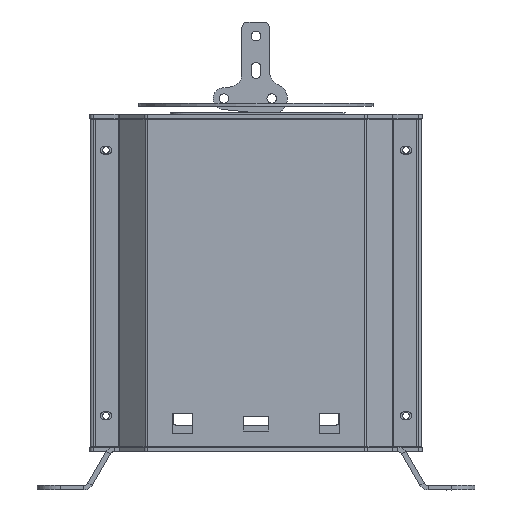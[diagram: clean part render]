
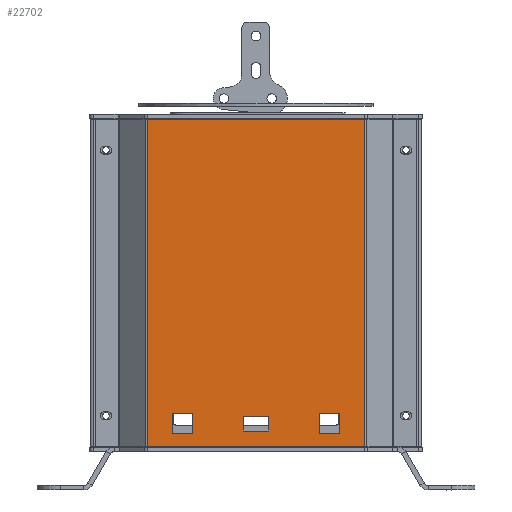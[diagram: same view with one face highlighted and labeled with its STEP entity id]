
A CAD part, front view. The second image highlights one B-rep face of the part: STEP entity #22702.
In plain terms, the highlighted planar face has unit normal (0, -1, 0).
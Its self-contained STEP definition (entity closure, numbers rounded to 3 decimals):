
#116=FACE_BOUND('',#3768,.T.);
#117=FACE_BOUND('',#3769,.T.);
#118=FACE_BOUND('',#3770,.T.);
#2502=FACE_OUTER_BOUND('',#3767,.T.);
#3767=EDGE_LOOP('',(#15928,#15929,#15930,#15931));
#3768=EDGE_LOOP('',(#15932,#15933,#15934,#15935));
#3769=EDGE_LOOP('',(#15936,#15937,#15938,#15939));
#3770=EDGE_LOOP('',(#15940,#15941,#15942,#15943));
#5600=LINE('',#33927,#7780);
#5604=LINE('',#33935,#7784);
#5607=LINE('',#33941,#7787);
#5610=LINE('',#33946,#7790);
#5612=LINE('',#33951,#7792);
#5616=LINE('',#33959,#7796);
#5619=LINE('',#33965,#7799);
#5622=LINE('',#33970,#7802);
#5624=LINE('',#33975,#7804);
#5628=LINE('',#33983,#7808);
#5631=LINE('',#33989,#7811);
#5634=LINE('',#33994,#7814);
#5640=LINE('',#34011,#7820);
#5653=LINE('',#34050,#7833);
#5667=LINE('',#34086,#7847);
#5668=LINE('',#34088,#7848);
#7780=VECTOR('',#26916,10.);
#7784=VECTOR('',#26922,10.);
#7787=VECTOR('',#26927,10.);
#7790=VECTOR('',#26932,10.);
#7792=VECTOR('',#26936,10.);
#7796=VECTOR('',#26942,10.);
#7799=VECTOR('',#26947,10.);
#7802=VECTOR('',#26952,10.);
#7804=VECTOR('',#26956,10.);
#7808=VECTOR('',#26962,10.);
#7811=VECTOR('',#26967,10.);
#7814=VECTOR('',#26972,10.);
#7820=VECTOR('',#26986,10.);
#7833=VECTOR('',#27019,10.);
#7847=VECTOR('',#27055,10.);
#7848=VECTOR('',#27058,10.);
#9927=VERTEX_POINT('',#33925);
#9928=VERTEX_POINT('',#33926);
#9931=VERTEX_POINT('',#33934);
#9933=VERTEX_POINT('',#33940);
#9935=VERTEX_POINT('',#33949);
#9936=VERTEX_POINT('',#33950);
#9939=VERTEX_POINT('',#33958);
#9941=VERTEX_POINT('',#33964);
#9943=VERTEX_POINT('',#33973);
#9944=VERTEX_POINT('',#33974);
#9947=VERTEX_POINT('',#33982);
#9949=VERTEX_POINT('',#33988);
#9952=VERTEX_POINT('',#33998);
#9957=VERTEX_POINT('',#34010);
#9968=VERTEX_POINT('',#34037);
#9973=VERTEX_POINT('',#34049);
#12185=EDGE_CURVE('',#9927,#9928,#5600,.T.);
#12189=EDGE_CURVE('',#9928,#9931,#5604,.T.);
#12192=EDGE_CURVE('',#9931,#9933,#5607,.T.);
#12195=EDGE_CURVE('',#9933,#9927,#5610,.T.);
#12197=EDGE_CURVE('',#9935,#9936,#5612,.T.);
#12201=EDGE_CURVE('',#9936,#9939,#5616,.T.);
#12204=EDGE_CURVE('',#9939,#9941,#5619,.T.);
#12207=EDGE_CURVE('',#9941,#9935,#5622,.T.);
#12209=EDGE_CURVE('',#9943,#9944,#5624,.T.);
#12213=EDGE_CURVE('',#9944,#9947,#5628,.T.);
#12216=EDGE_CURVE('',#9947,#9949,#5631,.T.);
#12219=EDGE_CURVE('',#9949,#9943,#5634,.T.);
#12227=EDGE_CURVE('',#9957,#9952,#5640,.T.);
#12246=EDGE_CURVE('',#9968,#9973,#5653,.F.);
#12265=EDGE_CURVE('',#9957,#9968,#5667,.T.);
#12266=EDGE_CURVE('',#9973,#9952,#5668,.T.);
#15928=ORIENTED_EDGE('',*,*,#12265,.F.);
#15929=ORIENTED_EDGE('',*,*,#12227,.T.);
#15930=ORIENTED_EDGE('',*,*,#12266,.F.);
#15931=ORIENTED_EDGE('',*,*,#12246,.F.);
#15932=ORIENTED_EDGE('',*,*,#12192,.T.);
#15933=ORIENTED_EDGE('',*,*,#12195,.T.);
#15934=ORIENTED_EDGE('',*,*,#12185,.T.);
#15935=ORIENTED_EDGE('',*,*,#12189,.T.);
#15936=ORIENTED_EDGE('',*,*,#12204,.T.);
#15937=ORIENTED_EDGE('',*,*,#12207,.T.);
#15938=ORIENTED_EDGE('',*,*,#12197,.T.);
#15939=ORIENTED_EDGE('',*,*,#12201,.T.);
#15940=ORIENTED_EDGE('',*,*,#12216,.T.);
#15941=ORIENTED_EDGE('',*,*,#12219,.T.);
#15942=ORIENTED_EDGE('',*,*,#12209,.T.);
#15943=ORIENTED_EDGE('',*,*,#12213,.T.);
#22008=PLANE('',#24108);
#22702=ADVANCED_FACE('',(#2502,#116,#117,#118),#22008,.T.);
#24108=AXIS2_PLACEMENT_3D('',#34087,#27056,#27057);
#26916=DIRECTION('',(0.,0.,-1.));
#26922=DIRECTION('',(-1.,0.,0.));
#26927=DIRECTION('',(0.,0.,1.));
#26932=DIRECTION('',(1.,0.,0.));
#26936=DIRECTION('',(0.,0.,1.));
#26942=DIRECTION('',(1.,0.,0.));
#26947=DIRECTION('',(0.,0.,-1.));
#26952=DIRECTION('',(-1.,0.,0.));
#26956=DIRECTION('',(-1.,0.,0.));
#26962=DIRECTION('',(0.,0.,1.));
#26967=DIRECTION('',(1.,0.,0.));
#26972=DIRECTION('',(0.,0.,-1.));
#26986=DIRECTION('',(-1.,0.,0.));
#27019=DIRECTION('',(1.,0.,0.));
#27055=DIRECTION('',(0.,0.,-1.));
#27056=DIRECTION('center_axis',(0.,-1.,0.));
#27057=DIRECTION('ref_axis',(-1.,0.,0.));
#27058=DIRECTION('',(0.,0.,1.));
#33925=CARTESIAN_POINT('',(-40.5,-126.,-51.5));
#33926=CARTESIAN_POINT('',(-40.5,-126.,-64.5));
#33927=CARTESIAN_POINT('',(-40.5,-126.,36.25));
#33934=CARTESIAN_POINT('',(-53.5,-126.,-64.5));
#33935=CARTESIAN_POINT('',(8.25,-126.,-64.5));
#33940=CARTESIAN_POINT('',(-53.5,-126.,-51.5));
#33941=CARTESIAN_POINT('',(-53.5,-126.,42.75));
#33946=CARTESIAN_POINT('',(14.75,-126.,-51.5));
#33949=CARTESIAN_POINT('',(-8.25,-126.,-62.75));
#33950=CARTESIAN_POINT('',(-8.25,-126.,-53.25));
#33951=CARTESIAN_POINT('',(-8.25,-126.,41.875));
#33958=CARTESIAN_POINT('',(8.25,-126.,-53.25));
#33959=CARTESIAN_POINT('',(39.125,-126.,-53.25));
#33964=CARTESIAN_POINT('',(8.25,-126.,-62.75));
#33965=CARTESIAN_POINT('',(8.25,-126.,37.125));
#33970=CARTESIAN_POINT('',(30.875,-126.,-62.75));
#33973=CARTESIAN_POINT('',(53.5,-126.,-64.5));
#33974=CARTESIAN_POINT('',(40.5,-126.,-64.5));
#33975=CARTESIAN_POINT('',(55.25,-126.,-64.5));
#33982=CARTESIAN_POINT('',(40.5,-126.,-51.5));
#33983=CARTESIAN_POINT('',(40.5,-126.,42.75));
#33988=CARTESIAN_POINT('',(53.5,-126.,-51.5));
#33989=CARTESIAN_POINT('',(61.75,-126.,-51.5));
#33994=CARTESIAN_POINT('',(53.5,-126.,36.25));
#33998=CARTESIAN_POINT('',(-69.586,-126.,136.75));
#34010=CARTESIAN_POINT('',(69.586,-126.,136.75));
#34011=CARTESIAN_POINT('',(78.5,-126.,136.75));
#34037=CARTESIAN_POINT('',(69.586,-126.,-72.75));
#34049=CARTESIAN_POINT('',(-69.586,-126.,-72.75));
#34050=CARTESIAN_POINT('',(-8.5,-126.,-72.75));
#34086=CARTESIAN_POINT('',(69.586,-126.,137.));
#34087=CARTESIAN_POINT('Origin',(70.,-126.,137.));
#34088=CARTESIAN_POINT('',(-69.586,-126.,137.));
